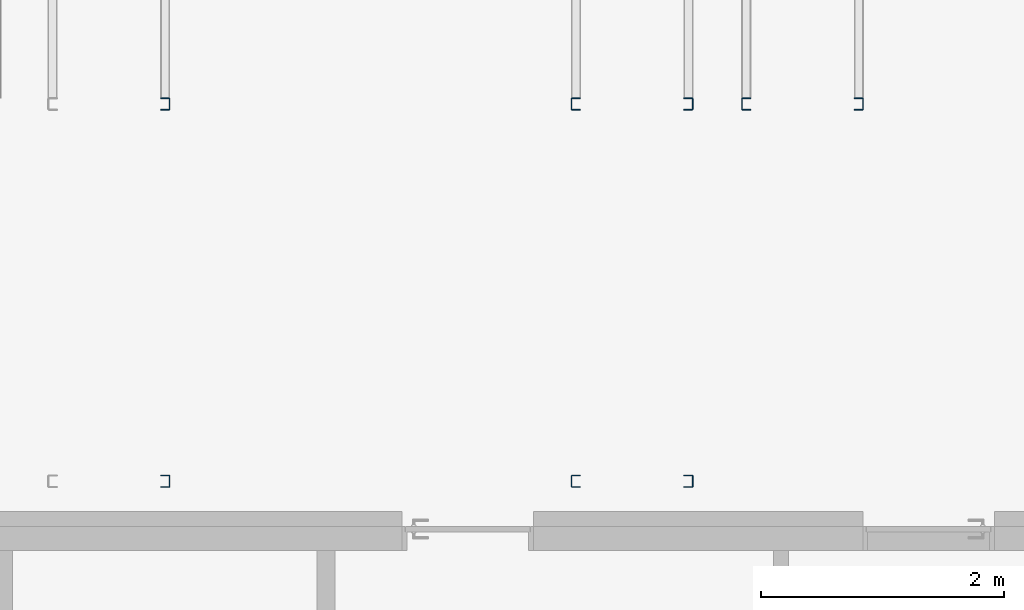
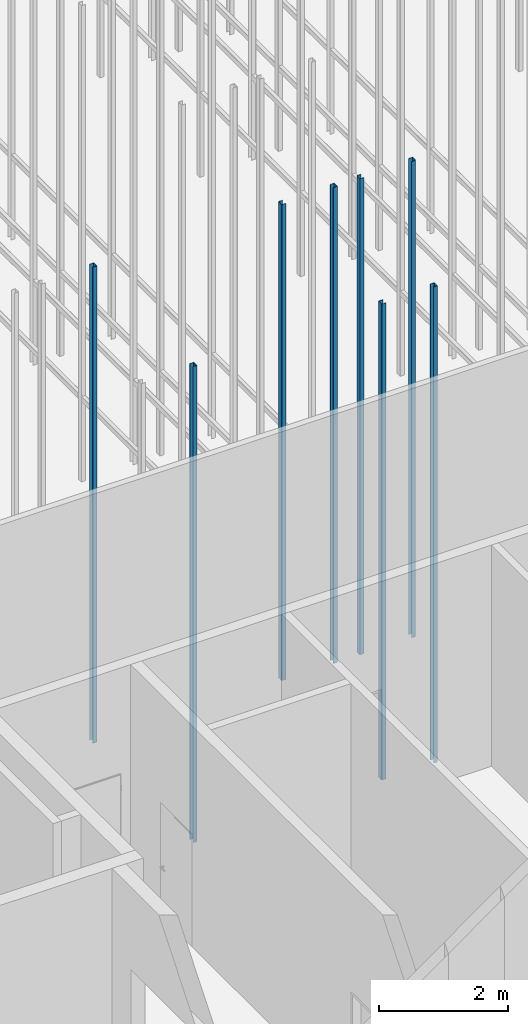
# One storey, part 8 of 302: 8 columns.
"""IFC2X3 building model written with IfcOpenShell, lengths in metres."""

from ifc_helpers import new_model, entity, si_unit, converted_unit, derived_unit, direction, frame, frame_2d, origin, place, context, subcontext, project, spatial, polyline, circle_curve, parameter, trimmed, segment, composite_curve, outline, extrude, source, transform, mapped, material, type_object, type_shapes, element, save


model = new_model("IFC2X3")

# Units and contexts
model_context = context("Model", 3, precision=1e-05, world=origin(), true_north=direction((6.12303176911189e-17, 1.0)))
body_context = subcontext(model_context, "Body", "Model", "MODEL_VIEW")
ifc_project = project(units=[si_unit("LENGTHUNIT", "METRE"), si_unit("AREAUNIT", "SQUARE_METRE"), si_unit("VOLUMEUNIT", "CUBIC_METRE"), converted_unit("PLANEANGLEUNIT", "DEGREE", entity("IfcRatioMeasure", 0.0174532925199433), si_unit("PLANEANGLEUNIT", "RADIAN"), dimensions=[0, 0, 0, 0, 0, 0, 0]), si_unit("MASSUNIT", "GRAM", prefix="KILO"), derived_unit("MASSDENSITYUNIT", [(si_unit("MASSUNIT", "GRAM", prefix="KILO"), 1), (si_unit("LENGTHUNIT", "METRE"), -3)]), derived_unit("MOMENTOFINERTIAUNIT", [(si_unit("LENGTHUNIT", "METRE"), 4)]), si_unit("TIMEUNIT", "SECOND"), si_unit("FREQUENCYUNIT", "HERTZ"), si_unit("THERMODYNAMICTEMPERATUREUNIT", "DEGREE_CELSIUS"), derived_unit("THERMALTRANSMITTANCEUNIT", [(si_unit("MASSUNIT", "GRAM", prefix="KILO"), 1), (si_unit("THERMODYNAMICTEMPERATUREUNIT", "KELVIN"), -1), (si_unit("TIMEUNIT", "SECOND"), -3)]), derived_unit("VOLUMETRICFLOWRATEUNIT", [(si_unit("LENGTHUNIT", "METRE"), 3), (si_unit("TIMEUNIT", "SECOND"), -1)]), si_unit("ELECTRICCURRENTUNIT", "AMPERE"), si_unit("ELECTRICVOLTAGEUNIT", "VOLT"), si_unit("POWERUNIT", "WATT"), si_unit("FORCEUNIT", "NEWTON", prefix="KILO"), si_unit("ILLUMINANCEUNIT", "LUX"), si_unit("LUMINOUSFLUXUNIT", "LUMEN"), si_unit("LUMINOUSINTENSITYUNIT", "CANDELA"), derived_unit("USERDEFINED", [(si_unit("MASSUNIT", "GRAM", prefix="KILO"), -1), (si_unit("LENGTHUNIT", "METRE"), -2), (si_unit("TIMEUNIT", "SECOND"), 3), (si_unit("LUMINOUSFLUXUNIT", "LUMEN"), 1)]), derived_unit("LINEARVELOCITYUNIT", [(si_unit("LENGTHUNIT", "METRE"), 1), (si_unit("TIMEUNIT", "SECOND"), -1)]), si_unit("PRESSUREUNIT", "PASCAL"), derived_unit("USERDEFINED", [(si_unit("LENGTHUNIT", "METRE"), -2), (si_unit("MASSUNIT", "GRAM", prefix="KILO"), 1), (si_unit("TIMEUNIT", "SECOND"), -2)]), derived_unit("LINEARFORCEUNIT", [(si_unit("MASSUNIT", "GRAM", prefix="KILO"), 1), (si_unit("LENGTHUNIT", "METRE"), 1), (si_unit("TIMEUNIT", "SECOND"), -2), (si_unit("LENGTHUNIT", "METRE"), -1)]), derived_unit("PLANARFORCEUNIT", [(si_unit("MASSUNIT", "GRAM", prefix="KILO"), 1), (si_unit("LENGTHUNIT", "METRE"), 1), (si_unit("TIMEUNIT", "SECOND"), -2), (si_unit("LENGTHUNIT", "METRE"), -2)])], contexts=[model_context])

# Site, building, storey
site_placement = place(None, origin())
site = spatial("IfcSite", under=ifc_project, at=site_placement, Name="Default", CompositionType="ELEMENT")
building_placement = place(site_placement, origin())
building = spatial("IfcBuilding", under=site, at=building_placement, CompositionType="ELEMENT")
storey_placement = place(building_placement, frame((0.0, 0.0, -1.3)))
storey = spatial("IfcBuildingStorey", under=building, at=storey_placement, Name="00_EG", CompositionType="ELEMENT", Elevation=-1.3)

# Columns
ifc_material = material(Name="Metall - Baustahl S235")
column_type_1 = type_object("IfcColumnType", Name="Leichter Stahl Schlossschrauben Stütze:C 100", PredefinedType="COLUMN", material=ifc_material)
shared_shape_1 = source(origin(), body_context, "Body", "SweptSolid", [
    extrude(outline(composite_curve([segment(polyline([(-0.0469749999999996, -0.0499999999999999), (0.0214500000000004, -0.0499999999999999)]), True, "CONTINUOUS"), segment(trimmed(circle_curve(frame_2d((0.0214500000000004, -0.0434249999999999), x_axis=(0.0, -1.0)), 0.00657500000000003), [parameter(0.0)], [parameter(89.9999999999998)], True, "PARAMETER"), True, "CONTINUOUS"), segment(polyline([(0.0280250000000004, -0.0434249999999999), (0.0280250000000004, 0.0434250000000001)]), True, "CONTINUOUS"), segment(trimmed(circle_curve(frame_2d((0.0214500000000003, 0.0434250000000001), x_axis=(1.0, 0.0)), 0.0065750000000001), [parameter(0.0)], [parameter(89.9999999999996)], True, "PARAMETER"), True, "CONTINUOUS"), segment(polyline([(0.0214500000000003, 0.0500000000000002), (-0.0469750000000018, 0.0500000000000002)]), True, "CONTINUOUS"), segment(polyline([(-0.0469750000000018, 0.0500000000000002), (-0.0469750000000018, 0.0450000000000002)]), True, "CONTINUOUS"), segment(polyline([(-0.0469750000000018, 0.0450000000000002), (0.0214500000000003, 0.0450000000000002)]), True, "CONTINUOUS"), segment(trimmed(circle_curve(frame_2d((0.0214500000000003, 0.0434249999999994), x_axis=(0.0, 1.0)), 0.00157500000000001), [parameter(269.999999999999)], [parameter(0.0)], True, "PARAMETER"), False, "CONTINUOUS"), segment(polyline([(0.0230250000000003, 0.0434249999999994), (0.0230250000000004, -0.0434249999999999)]), True, "CONTINUOUS"), segment(trimmed(circle_curve(frame_2d((0.0214500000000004, -0.0434249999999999), x_axis=(1.0, 0.0)), 0.00157500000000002), [parameter(270.0)], [parameter(0.0)], True, "PARAMETER"), False, "CONTINUOUS"), segment(polyline([(0.0214500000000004, -0.0449999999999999), (-0.0469749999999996, -0.0449999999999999)]), True, "CONTINUOUS"), segment(polyline([(-0.0469749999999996, -0.0449999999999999), (-0.0469749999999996, -0.0499999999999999)]), True, "CONTINUOUS")], self_intersect=False)), frame((0.0499999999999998, 0.0280250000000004, -0.0300000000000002), z_axis=(0.0, 0.0, 1.0), x_axis=(0.0, -1.0, 0.0)), (0.0, 0.0, 1.0), 9.0),
])
type_shapes(column_type_1, [shared_shape_1])
for number, where, z_axis, x_axis in (
    (1, (-196.490111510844, 27.148088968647, 1.3), (0.0, 0.0, 1.0), (0.0, -1.0, 0.0)),
    (2, (-196.490111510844, 24.048088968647, 1.3), (0.0, 0.0, 1.0), (0.0, -1.0, 0.0)),
    (3, (-195.090111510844, 27.148088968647, 1.3), (0.0, 0.0, 1.0), (0.0, -1.0, 0.0)),
):
    element("IfcColumn", number, at=place(storey_placement, frame(where, z_axis=z_axis, x_axis=x_axis)), inside=storey, type_object=column_type_1, material=ifc_material, Name="Leichter Stahl Schlossschrauben Stütze:C 100", ObjectType="Leichter Stahl Schlossschrauben Stütze:C 100", context=body_context, shape_type="MappedRepresentation", body=[
        mapped(shared_shape_1, transform((0.0, 0.0, 0.0), scale=1.0)),
    ])
column_type_2 = type_object("IfcColumnType", Name="Leichter Stahl Schlossschrauben Stütze:C 100", PredefinedType="COLUMN", material=ifc_material)
shared_shape_2 = source(origin(), body_context, "Body", "SweptSolid", [
    extrude(outline(composite_curve([segment(polyline([(-0.0214500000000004, -0.0499999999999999), (0.0469749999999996, -0.0499999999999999)]), True, "CONTINUOUS"), segment(polyline([(0.0469749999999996, -0.0499999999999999), (0.0469749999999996, -0.0449999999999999)]), True, "CONTINUOUS"), segment(polyline([(0.0469749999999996, -0.0449999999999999), (-0.0214500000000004, -0.045)]), True, "CONTINUOUS"), segment(trimmed(circle_curve(frame_2d((-0.0214500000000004, -0.043425), x_axis=(0.0, -1.0)), 0.00157500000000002), [parameter(270.0)], [parameter(0.0)], True, "PARAMETER"), False, "CONTINUOUS"), segment(polyline([(-0.0230250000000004, -0.0434249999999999), (-0.0230250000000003, 0.0434249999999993)]), True, "CONTINUOUS"), segment(trimmed(circle_curve(frame_2d((-0.0214500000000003, 0.0434249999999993), x_axis=(-1.0, 0.0)), 0.00157500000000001), [parameter(269.999999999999)], [parameter(0.0)], True, "PARAMETER"), False, "CONTINUOUS"), segment(polyline([(-0.0214500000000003, 0.0450000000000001), (0.0469750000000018, 0.0450000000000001)]), True, "CONTINUOUS"), segment(polyline([(0.0469750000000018, 0.0450000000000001), (0.0469750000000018, 0.0500000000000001)]), True, "CONTINUOUS"), segment(polyline([(0.0469750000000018, 0.0500000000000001), (-0.0214500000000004, 0.0500000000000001)]), True, "CONTINUOUS"), segment(trimmed(circle_curve(frame_2d((-0.0214500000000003, 0.043425), x_axis=(0.0, 1.0)), 0.0065750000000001), [parameter(0.0)], [parameter(89.9999999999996)], True, "PARAMETER"), True, "CONTINUOUS"), segment(polyline([(-0.0280250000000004, 0.043425), (-0.0280250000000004, -0.043425)]), True, "CONTINUOUS"), segment(trimmed(circle_curve(frame_2d((-0.0214500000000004, -0.0434249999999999), x_axis=(-1.0, 0.0)), 0.00657500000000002), [parameter(0.0)], [parameter(89.9999999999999)], True, "PARAMETER"), True, "CONTINUOUS")], self_intersect=False)), frame((0.0499999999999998, -0.0280250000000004, -0.0300000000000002), z_axis=(0.0, 0.0, 1.0), x_axis=(0.0, -1.0, 0.0)), (0.0, 0.0, 1.0), 9.0),
])
type_shapes(column_type_2, [shared_shape_2])
for number, where, z_axis, x_axis in (
    (4, (-195.490111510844, 27.148088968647, 1.3), (0.0, 0.0, 1.0), (0.0, -1.0, 0.0)),
    (5, (-195.490111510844, 24.048088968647, 1.3), (0.0, 0.0, 1.0), (0.0, -1.0, 0.0)),
    (6, (-199.790111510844, 27.148088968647, 1.3), (0.0, 0.0, 1.0), (0.0, -1.0, 0.0)),
    (7, (-199.790111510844, 24.048088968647, 1.3), (0.0, 0.0, 1.0), (0.0, -1.0, 0.0)),
    (8, (-194.090111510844, 27.148088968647, 1.3), (0.0, 0.0, 1.0), (0.0, -1.0, 0.0)),
):
    element("IfcColumn", number, at=place(storey_placement, frame(where, z_axis=z_axis, x_axis=x_axis)), inside=storey, type_object=column_type_2, material=ifc_material, Name="Leichter Stahl Schlossschrauben Stütze:C 100", ObjectType="Leichter Stahl Schlossschrauben Stütze:C 100", context=body_context, shape_type="MappedRepresentation", body=[
        mapped(shared_shape_2, transform((0.0, 0.0, 0.0), scale=1.0)),
    ])

save(model, "model.ifc")
